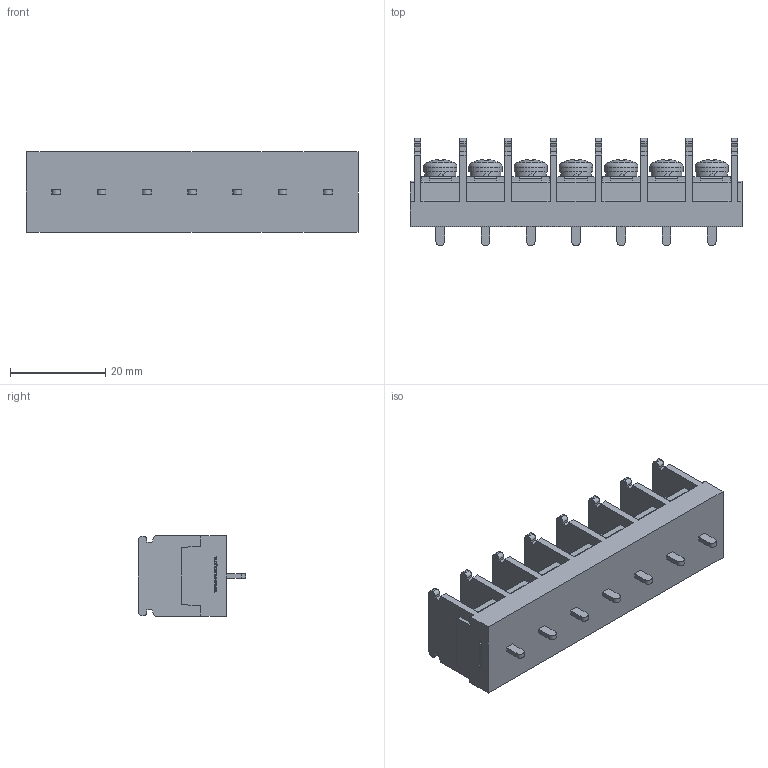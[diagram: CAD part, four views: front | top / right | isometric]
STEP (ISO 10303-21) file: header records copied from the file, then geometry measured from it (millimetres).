
FILE_DESCRIPTION(/* description */ ('Alibre Inc.'),/* implementation_level */ '2;1');
FILE_NAME(/* name */ 'export-DD19B998-A130-425A-9ABA-E59DED59D4C2',/* time_stamp */ '2020-11-04T18:13:46+09:00',/* author */ (''),/* organization */ (''),/* preprocessor_version */ 'ST-DEVELOPER v17',/* originating_system */ 'Alibre',/* authorisation */ '');
FILE_SCHEMA (('CONFIG_CONTROL_DESIGN'));
Length unit declared in the file: millimetre
Bounding box: 69.7 x 22.5 x 17 mm (x, y, z)
Volume: 12852.3 mm3; surface area: 8521.4 mm2
Topology: 1 solids, 24 shells, 983 faces, 2661 edges, 1767 vertices
Faces by surface type: plane 706, cylinder 117, bspline 104, cone 35, torus 14, sphere 7
Full cylindrical faces by diameter (mm): 4 x14, 6.5 x7, 7 x7
Entity records: 29659 total; most frequent: CARTESIAN_POINT 6411, ORIENTED_EDGE 5182, DIRECTION 3782, EDGE_CURVE 2591, VECTOR 1834, LINE 1834, VERTEX_POINT 1739, AXIS2_PLACEMENT_3D 1310
